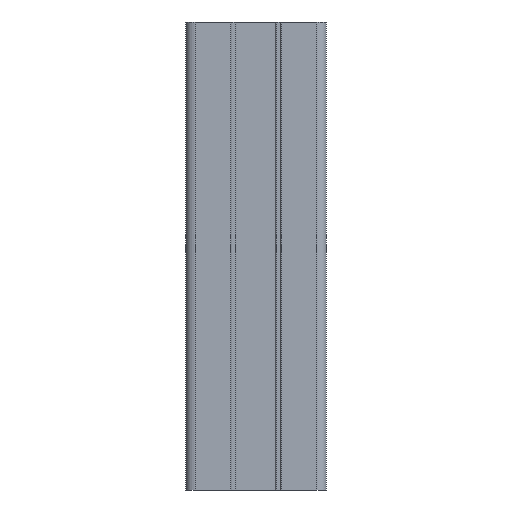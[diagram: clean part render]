
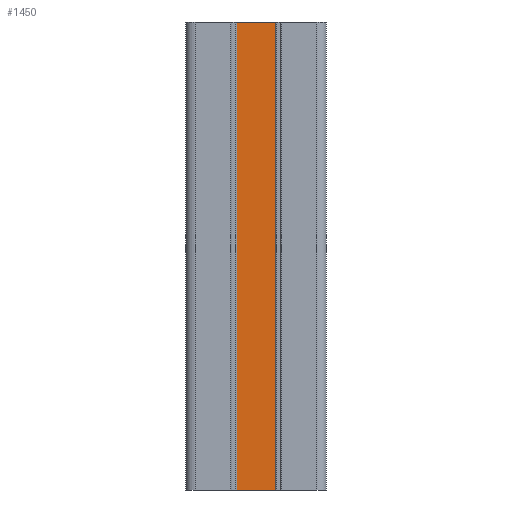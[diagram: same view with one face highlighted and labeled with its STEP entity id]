
A CAD part, front view. The second image highlights one B-rep face of the part: STEP entity #1450.
In plain terms, the highlighted planar face has unit normal (0, -1, 0).
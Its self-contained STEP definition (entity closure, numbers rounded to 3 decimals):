
#1394=CARTESIAN_POINT('',(224.318,107.481,100.0));
#1395=VERTEX_POINT('',#1394);
#1402=CARTESIAN_POINT('',(224.318,107.481,0.0));
#1403=VERTEX_POINT('',#1402);
#1404=CARTESIAN_POINT('',(224.318,107.481,0.0));
#1405=DIRECTION('',(0.0,0.0,1.0));
#1406=VECTOR('',#1405,100.0);
#1407=LINE('',#1404,#1406);
#1408=EDGE_CURVE('',#1403,#1395,#1407,.T.);
#1420=CARTESIAN_POINT('',(224.318,107.481,0.0));
#1421=DIRECTION('',(0.0,-1.0,0.0));
#1422=DIRECTION('',(0.0,0.0,-1.0));
#1423=AXIS2_PLACEMENT_3D('',#1420,#1421,#1422);
#1424=PLANE('',#1423);
#1425=CARTESIAN_POINT('',(215.918,107.481,100.0));
#1426=VERTEX_POINT('',#1425);
#1427=CARTESIAN_POINT('',(224.318,107.481,100.0));
#1428=DIRECTION('',(-1.0,0.0,0.0));
#1429=VECTOR('',#1428,8.4);
#1430=LINE('',#1427,#1429);
#1431=EDGE_CURVE('',#1395,#1426,#1430,.T.);
#1432=ORIENTED_EDGE('',*,*,#1431,.T.);
#1433=CARTESIAN_POINT('',(215.918,107.481,0.0));
#1434=VERTEX_POINT('',#1433);
#1435=CARTESIAN_POINT('',(215.918,107.481,0.0));
#1436=DIRECTION('',(0.0,0.0,1.0));
#1437=VECTOR('',#1436,100.0);
#1438=LINE('',#1435,#1437);
#1439=EDGE_CURVE('',#1434,#1426,#1438,.T.);
#1440=ORIENTED_EDGE('',*,*,#1439,.F.);
#1441=CARTESIAN_POINT('',(215.918,107.481,0.0));
#1442=DIRECTION('',(1.0,0.0,0.0));
#1443=VECTOR('',#1442,8.4);
#1444=LINE('',#1441,#1443);
#1445=EDGE_CURVE('',#1434,#1403,#1444,.T.);
#1446=ORIENTED_EDGE('',*,*,#1445,.T.);
#1447=ORIENTED_EDGE('',*,*,#1408,.T.);
#1448=EDGE_LOOP('',(#1432,#1440,#1446,#1447));
#1449=FACE_OUTER_BOUND('',#1448,.T.);
#1450=ADVANCED_FACE('',(#1449),#1424,.T.);
